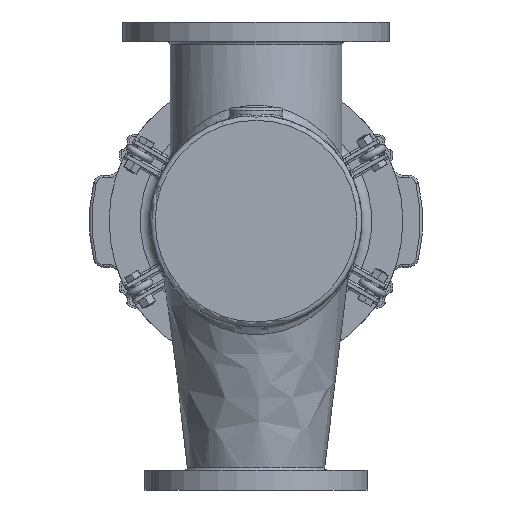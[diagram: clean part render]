
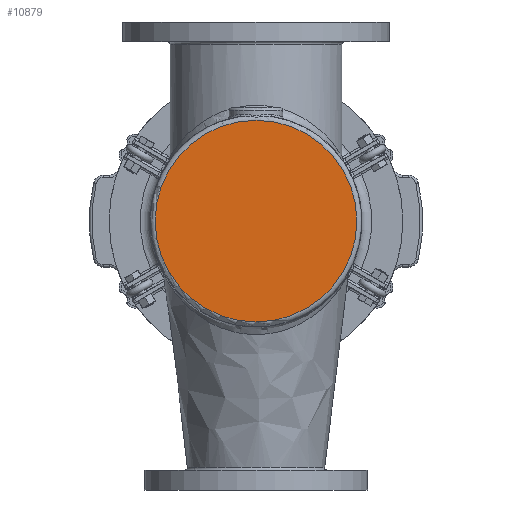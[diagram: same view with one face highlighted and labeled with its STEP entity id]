
A CAD part, front view. The second image highlights one B-rep face of the part: STEP entity #10879.
In plain terms, the highlighted planar face has unit normal (0, -1, 0).
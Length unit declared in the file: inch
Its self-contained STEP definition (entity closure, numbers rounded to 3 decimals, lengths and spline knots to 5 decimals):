
#1447=PLANE('',#11612);
#2371=FACE_OUTER_BOUND('',#3075,.T.);
#3075=EDGE_LOOP('',(#7296));
#3959=CIRCLE('',#11604,5.0625);
#4701=VERTEX_POINT('',#16790);
#5706=EDGE_CURVE('',#4701,#4701,#3959,.T.);
#7296=ORIENTED_EDGE('',*,*,#5706,.F.);
#10879=ADVANCED_FACE('',(#2371),#1447,.F.);
#11604=AXIS2_PLACEMENT_3D('',#16791,#13083,#13084);
#11612=AXIS2_PLACEMENT_3D('',#16802,#13099,#13100);
#13083=DIRECTION('center_axis',(0.,1.,0.));
#13084=DIRECTION('ref_axis',(1.,0.,0.));
#13099=DIRECTION('center_axis',(0.,1.,0.));
#13100=DIRECTION('ref_axis',(0.,0.,1.));
#16790=CARTESIAN_POINT('',(-5.0625,0.,0.));
#16791=CARTESIAN_POINT('Origin',(0.,0.,0.));
#16802=CARTESIAN_POINT('Origin',(0.,0.,0.));
